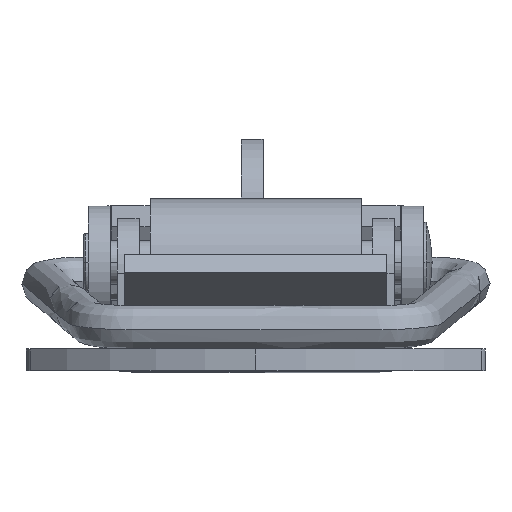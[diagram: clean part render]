
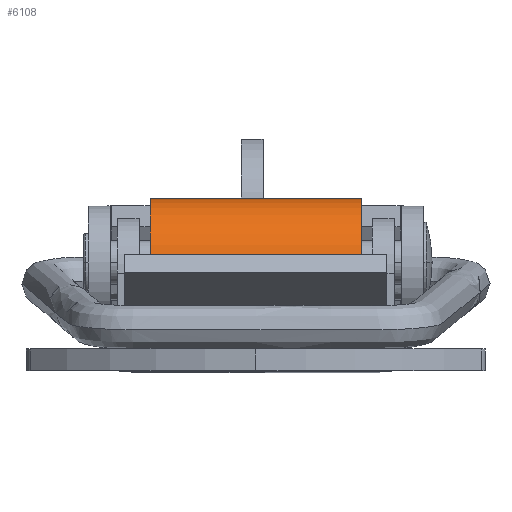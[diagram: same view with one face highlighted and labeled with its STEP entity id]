
A CAD part, top view. The second image highlights one B-rep face of the part: STEP entity #6108.
In plain terms, the highlighted cylindrical face has radius 5 mm (diameter 10 mm), a partial arc.
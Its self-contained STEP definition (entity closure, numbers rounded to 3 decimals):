
#132 = CIRCLE ( 'NONE', #3486, 5. ) ;
#173 = DIRECTION ( 'NONE',  ( 1., 0., 0. ) ) ;
#186 = DIRECTION ( 'NONE',  ( 0., 0., -1. ) ) ;
#197 = CARTESIAN_POINT ( 'NONE',  ( 0., -5., 4.25 ) ) ;
#442 = ORIENTED_EDGE ( 'NONE', *, *, #5022, .F. ) ;
#1204 = CARTESIAN_POINT ( 'NONE',  ( 0., 0., 4.25 ) ) ;
#1461 = DIRECTION ( 'NONE',  ( 0., 0., -1. ) ) ;
#1536 = CARTESIAN_POINT ( 'NONE',  ( 0., -5., 23. ) ) ;
#1550 = DIRECTION ( 'NONE',  ( -1., 0., 0. ) ) ;
#1625 = CIRCLE ( 'NONE', #2616, 5. ) ;
#1732 = LINE ( 'NONE', #2314, #1790 ) ;
#1790 = VECTOR ( 'NONE', #2303, 1000. ) ;
#2293 = AXIS2_PLACEMENT_3D ( 'NONE', #1536, #1461, #1550 ) ;
#2303 = DIRECTION ( 'NONE',  ( 0., 0., -1. ) ) ;
#2314 = CARTESIAN_POINT ( 'NONE',  ( 5., -5., 23. ) ) ;
#2341 = DIRECTION ( 'NONE',  ( 1., 0., 0. ) ) ;
#2371 = DIRECTION ( 'NONE',  ( 0., 0., -1. ) ) ;
#2423 = CARTESIAN_POINT ( 'NONE',  ( 0., -5., 18.75 ) ) ;
#2437 = VERTEX_POINT ( 'NONE', #5225 ) ;
#2452 = FACE_OUTER_BOUND ( 'NONE', #5191, .T. ) ;
#2500 = CYLINDRICAL_SURFACE ( 'NONE', #2293, 5. ) ;
#2616 = AXIS2_PLACEMENT_3D ( 'NONE', #2423, #2371, #2341 ) ;
#2831 = LINE ( 'NONE', #6759, #2848 ) ;
#2848 = VECTOR ( 'NONE', #6435, 1000. ) ;
#3486 = AXIS2_PLACEMENT_3D ( 'NONE', #197, #186, #173 ) ;
#3507 = EDGE_CURVE ( 'NONE', #6093, #6727, #1732, .T. ) ;
#4796 = ORIENTED_EDGE ( 'NONE', *, *, #3507, .T. ) ;
#5022 = EDGE_CURVE ( 'NONE', #6466, #6727, #132, .T. ) ;
#5072 = ORIENTED_EDGE ( 'NONE', *, *, #5650, .T. ) ;
#5191 = EDGE_LOOP ( 'NONE', ( #6484, #5072, #4796, #442 ) ) ;
#5225 = CARTESIAN_POINT ( 'NONE',  ( 0., 0., 18.75 ) ) ;
#5380 = CARTESIAN_POINT ( 'NONE',  ( 5., -5., 18.75 ) ) ;
#5650 = EDGE_CURVE ( 'NONE', #2437, #6093, #1625, .T. ) ;
#6093 = VERTEX_POINT ( 'NONE', #5380 ) ;
#6108 = ADVANCED_FACE ( 'NONE', ( #2452 ), #2500, .T. ) ;
#6352 = EDGE_CURVE ( 'NONE', #2437, #6466, #2831, .T. ) ;
#6435 = DIRECTION ( 'NONE',  ( 0., 0., -1. ) ) ;
#6466 = VERTEX_POINT ( 'NONE', #1204 ) ;
#6484 = ORIENTED_EDGE ( 'NONE', *, *, #6352, .F. ) ;
#6590 = CARTESIAN_POINT ( 'NONE',  ( 5., -5., 4.25 ) ) ;
#6727 = VERTEX_POINT ( 'NONE', #6590 ) ;
#6759 = CARTESIAN_POINT ( 'NONE',  ( 0., 0., 23. ) ) ;
